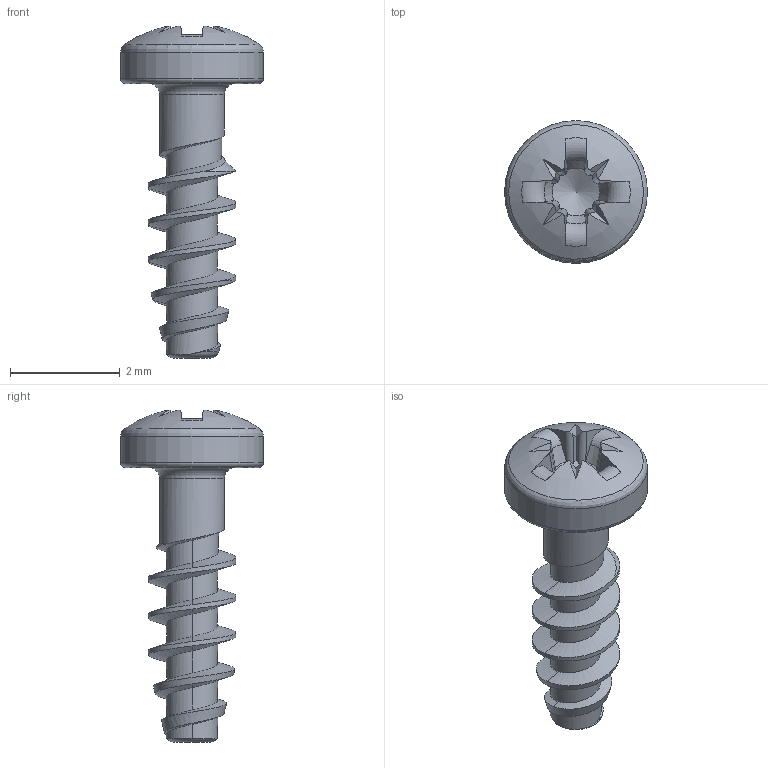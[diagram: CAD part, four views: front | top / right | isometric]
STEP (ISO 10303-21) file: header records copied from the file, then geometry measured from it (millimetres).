
FILE_DESCRIPTION(/* description */ (''),/* implementation_level */ '2;1');
FILE_NAME(/* name */ 'KN1032-STS-16x5-Z0.step',/* time_stamp */ '2017-10-16T13:21:02+02:00',/* author */ (''),/* organization */ (''),/* preprocessor_version */ 'ST-DEVELOPER v16',/* originating_system */ 'SIEMENS PLM Software NX 10.0',/* authorisation */ '');
FILE_SCHEMA (('AUTOMOTIVE_DESIGN { 1 0 10303 214 3 1 1 1 }'));
Length unit declared in the file: millimetre
Products named in the file (1): KN1032-STS-16x5-Z0
Bounding box: 2.6 x 2.6 x 6.05 mm (x, y, z)
Volume: 8.9 mm3; surface area: 43.3 mm2
Topology: 1 solids, 1 shells, 74 faces, 197 edges, 125 vertices
Faces by surface type: plane 26, bspline 20, cylinder 12, torus 8, cone 7, sphere 1
Full cylindrical faces by diameter (mm): 1.18 x1, 2.6 x1
Entity records: 3727 total; most frequent: CARTESIAN_POINT 2145, ORIENTED_EDGE 362, DIRECTION 251, EDGE_CURVE 181, VERTEX_POINT 119, AXIS2_PLACEMENT_3D 101, B_SPLINE_CURVE_WITH_KNOTS 85, EDGE_LOOP 81
